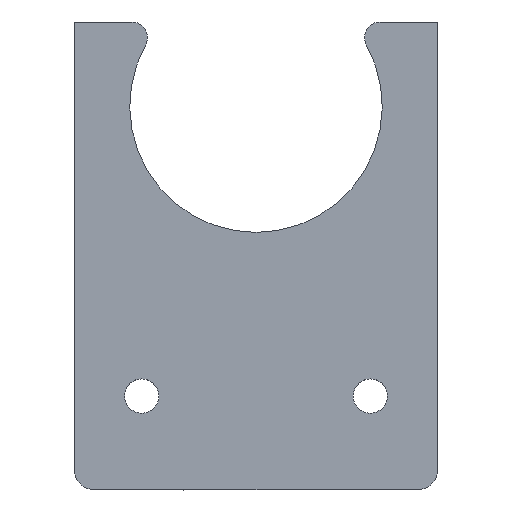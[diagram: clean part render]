
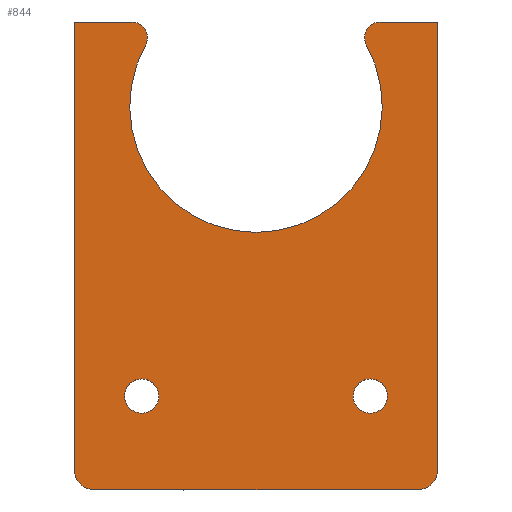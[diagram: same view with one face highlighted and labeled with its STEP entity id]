
A CAD part, top view. The second image highlights one B-rep face of the part: STEP entity #844.
In plain terms, the highlighted planar face has unit normal (0, 0, 1).
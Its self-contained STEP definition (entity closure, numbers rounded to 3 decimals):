
#50=FACE_BOUND('',#169,.T.);
#51=FACE_BOUND('',#170,.T.);
#71=PLANE('',#949);
#117=FACE_OUTER_BOUND('',#168,.T.);
#168=EDGE_LOOP('',(#763,#764,#765,#766,#767,#768,#769,#770,#771,#772));
#169=EDGE_LOOP('',(#773));
#170=EDGE_LOOP('',(#774));
#188=LINE('',#1263,#250);
#196=LINE('',#1284,#258);
#198=LINE('',#1291,#260);
#230=LINE('',#1552,#292);
#234=LINE('',#1565,#296);
#250=VECTOR('',#1002,10.);
#258=VECTOR('',#1020,10.);
#260=VECTOR('',#1028,10.);
#292=VECTOR('',#1182,10.);
#296=VECTOR('',#1198,10.);
#297=CIRCLE('',#864,2.);
#311=CIRCLE('',#882,2.);
#318=CIRCLE('',#898,1.65);
#324=CIRCLE('',#907,1.65);
#339=CIRCLE('',#946,1.5);
#340=CIRCLE('',#948,12.15);
#341=CIRCLE('',#950,1.5);
#342=VERTEX_POINT('',#1211);
#343=VERTEX_POINT('',#1212);
#366=VERTEX_POINT('',#1262);
#374=VERTEX_POINT('',#1282);
#375=VERTEX_POINT('',#1286);
#376=VERTEX_POINT('',#1290);
#384=VERTEX_POINT('',#1319);
#393=VERTEX_POINT('',#1347);
#416=VERTEX_POINT('',#1550);
#417=VERTEX_POINT('',#1554);
#418=VERTEX_POINT('',#1556);
#419=VERTEX_POINT('',#1560);
#420=EDGE_CURVE('',#342,#343,#297,.T.);
#445=EDGE_CURVE('',#366,#343,#188,.T.);
#457=EDGE_CURVE('',#342,#374,#196,.F.);
#458=EDGE_CURVE('',#366,#375,#311,.T.);
#460=EDGE_CURVE('',#376,#375,#198,.F.);
#474=EDGE_CURVE('',#384,#384,#318,.T.);
#484=EDGE_CURVE('',#393,#393,#324,.T.);
#533=EDGE_CURVE('',#374,#416,#230,.T.);
#535=EDGE_CURVE('',#417,#418,#339,.T.);
#537=EDGE_CURVE('',#419,#418,#340,.T.);
#539=EDGE_CURVE('',#419,#416,#341,.T.);
#540=EDGE_CURVE('',#417,#376,#234,.T.);
#763=ORIENTED_EDGE('',*,*,#420,.F.);
#764=ORIENTED_EDGE('',*,*,#457,.T.);
#765=ORIENTED_EDGE('',*,*,#533,.T.);
#766=ORIENTED_EDGE('',*,*,#539,.F.);
#767=ORIENTED_EDGE('',*,*,#537,.T.);
#768=ORIENTED_EDGE('',*,*,#535,.F.);
#769=ORIENTED_EDGE('',*,*,#540,.T.);
#770=ORIENTED_EDGE('',*,*,#460,.T.);
#771=ORIENTED_EDGE('',*,*,#458,.F.);
#772=ORIENTED_EDGE('',*,*,#445,.T.);
#773=ORIENTED_EDGE('',*,*,#474,.T.);
#774=ORIENTED_EDGE('',*,*,#484,.T.);
#844=ADVANCED_FACE('',(#117,#50,#51),#71,.T.);
#864=AXIS2_PLACEMENT_3D('',#1213,#963,#964);
#882=AXIS2_PLACEMENT_3D('',#1287,#1023,#1024);
#898=AXIS2_PLACEMENT_3D('',#1321,#1064,#1065);
#907=AXIS2_PLACEMENT_3D('',#1349,#1084,#1085);
#946=AXIS2_PLACEMENT_3D('',#1557,#1186,#1187);
#948=AXIS2_PLACEMENT_3D('',#1561,#1191,#1192);
#949=AXIS2_PLACEMENT_3D('',#1563,#1194,#1195);
#950=AXIS2_PLACEMENT_3D('',#1564,#1196,#1197);
#963=DIRECTION('center_axis',(0.,0.,
-1.));
#964=DIRECTION('ref_axis',(0.707,-0.707,0.));
#1002=DIRECTION('',(1.,0.,0.));
#1020=DIRECTION('',(0.,-1.,0.));
#1023=DIRECTION('center_axis',(0.,0.,
-1.));
#1024=DIRECTION('ref_axis',(-0.707,-0.707,0.));
#1028=DIRECTION('',(0.,1.,0.));
#1064=DIRECTION('center_axis',(0.,0.,
-1.));
#1065=DIRECTION('ref_axis',(-1.,0.,0.));
#1084=DIRECTION('center_axis',(0.,0.,
-1.));
#1085=DIRECTION('ref_axis',(-1.,0.,0.));
#1182=DIRECTION('',(-1.,0.,0.));
#1186=DIRECTION('center_axis',(0.,0.,
-1.));
#1187=DIRECTION('ref_axis',(0.861,0.508,0.));
#1191=DIRECTION('center_axis',(0.,0.,
-1.));
#1192=DIRECTION('ref_axis',(1.,0.,0.));
#1194=DIRECTION('center_axis',(0.,0.,
1.));
#1195=DIRECTION('ref_axis',(-1.,0.,0.));
#1196=DIRECTION('center_axis',(0.,0.,
-1.));
#1197=DIRECTION('ref_axis',(-0.861,0.508,0.));
#1198=DIRECTION('',(-1.,0.,0.));
#1211=CARTESIAN_POINT('',(-2.5,-54.227,-1.65));
#1212=CARTESIAN_POINT('',(-4.5,-56.227,-1.65));
#1213=CARTESIAN_POINT('Origin',(-4.5,-54.227,-1.65));
#1262=CARTESIAN_POINT('',(-35.5,-56.227,-1.65));
#1263=CARTESIAN_POINT('',(-33.5,-56.227,-1.65));
#1282=CARTESIAN_POINT('',(-2.5,-11.2,-1.65));
#1284=CARTESIAN_POINT('',(-2.5,-22.457,-1.65));
#1286=CARTESIAN_POINT('',(-37.5,-54.227,-1.65));
#1287=CARTESIAN_POINT('Origin',(-35.5,-54.227,-1.65));
#1290=CARTESIAN_POINT('',(-37.5,-11.2,-1.65));
#1291=CARTESIAN_POINT('',(-37.5,-43.971,-1.65));
#1319=CARTESIAN_POINT('',(-29.35,-47.2,-1.65));
#1321=CARTESIAN_POINT('Origin',(-31.,-47.2,-1.65));
#1347=CARTESIAN_POINT('',(-7.35,-47.2,-1.65));
#1349=CARTESIAN_POINT('Origin',(-9.,-47.2,-1.65));
#1550=CARTESIAN_POINT('',(-8.052,-11.2,-1.65));
#1552=CARTESIAN_POINT('',(-9.712,-11.2,-1.65));
#1554=CARTESIAN_POINT('',(-31.948,-11.2,-1.65));
#1556=CARTESIAN_POINT('',(-30.635,-13.425,-1.65));
#1557=CARTESIAN_POINT('Origin',(-31.948,-12.7,-1.65));
#1560=CARTESIAN_POINT('',(-9.365,-13.425,-1.65));
#1561=CARTESIAN_POINT('Origin',(-20.,-19.3,-1.65));
#1563=CARTESIAN_POINT('Origin',(-20.,-33.714,-1.65));
#1564=CARTESIAN_POINT('Origin',(-8.052,-12.7,-1.65));
#1565=CARTESIAN_POINT('',(-9.712,-11.2,-1.65));
